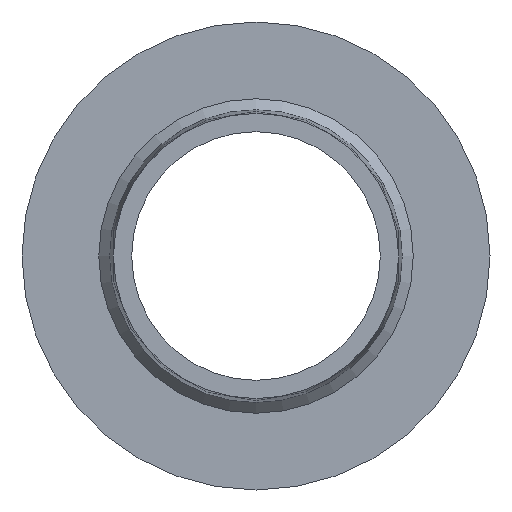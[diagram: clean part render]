
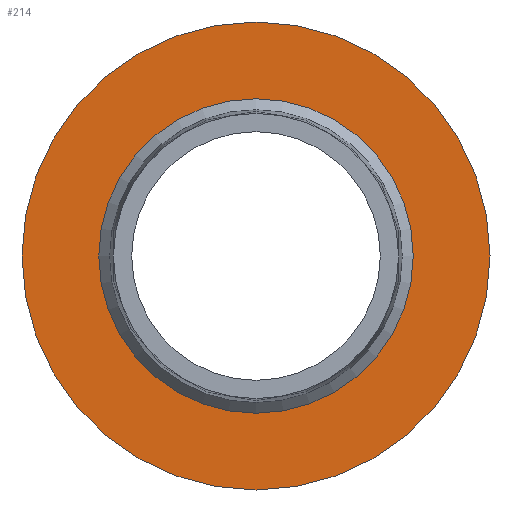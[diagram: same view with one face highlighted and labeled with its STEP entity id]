
A CAD part, left-side view. The second image highlights one B-rep face of the part: STEP entity #214.
In plain terms, the highlighted planar face has unit normal (-1, 0, 0).
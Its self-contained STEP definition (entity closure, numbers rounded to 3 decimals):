
#4 = DIRECTION ( 'NONE',  ( 0., 0., 1. ) ) ;
#20 = AXIS2_PLACEMENT_3D ( 'NONE', #180, #28, #63 ) ;
#22 = DIRECTION ( 'NONE',  ( 0., 0., -1. ) ) ;
#23 = DIRECTION ( 'NONE',  ( 1., 0., 0. ) ) ;
#28 = DIRECTION ( 'NONE',  ( -1., 0., 0. ) ) ;
#50 = PLANE ( 'NONE',  #185 ) ;
#53 = CARTESIAN_POINT ( 'NONE',  ( -1.5, 0., 5.375 ) ) ;
#54 = EDGE_LOOP ( 'NONE', ( #195 ) ) ;
#63 = DIRECTION ( 'NONE',  ( 0., 0., 1. ) ) ;
#65 = FACE_OUTER_BOUND ( 'NONE', #142, .T. ) ;
#70 = ORIENTED_EDGE ( 'NONE', *, *, #205, .F. ) ;
#81 = FACE_BOUND ( 'NONE', #54, .T. ) ;
#86 = EDGE_CURVE ( 'NONE', #139, #139, #176, .T. ) ;
#95 = AXIS2_PLACEMENT_3D ( 'NONE', #172, #23, #22 ) ;
#139 = VERTEX_POINT ( 'NONE', #53 ) ;
#141 = CARTESIAN_POINT ( 'NONE',  ( -1.5, 8., 0. ) ) ;
#142 = EDGE_LOOP ( 'NONE', ( #70 ) ) ;
#150 = CIRCLE ( 'NONE', #95, 8. ) ;
#157 = DIRECTION ( 'NONE',  ( -1., 0., 0. ) ) ;
#161 = VERTEX_POINT ( 'NONE', #196 ) ;
#172 = CARTESIAN_POINT ( 'NONE',  ( -1.5, 0., 0. ) ) ;
#176 = CIRCLE ( 'NONE', #20, 5.375 ) ;
#180 = CARTESIAN_POINT ( 'NONE',  ( -1.5, 0., 0. ) ) ;
#185 = AXIS2_PLACEMENT_3D ( 'NONE', #141, #157, #4 ) ;
#195 = ORIENTED_EDGE ( 'NONE', *, *, #86, .F. ) ;
#196 = CARTESIAN_POINT ( 'NONE',  ( -1.5, 0., -8. ) ) ;
#205 = EDGE_CURVE ( 'NONE', #161, #161, #150, .T. ) ;
#214 = ADVANCED_FACE ( 'NONE', ( #81, #65 ), #50, .T. ) ;
